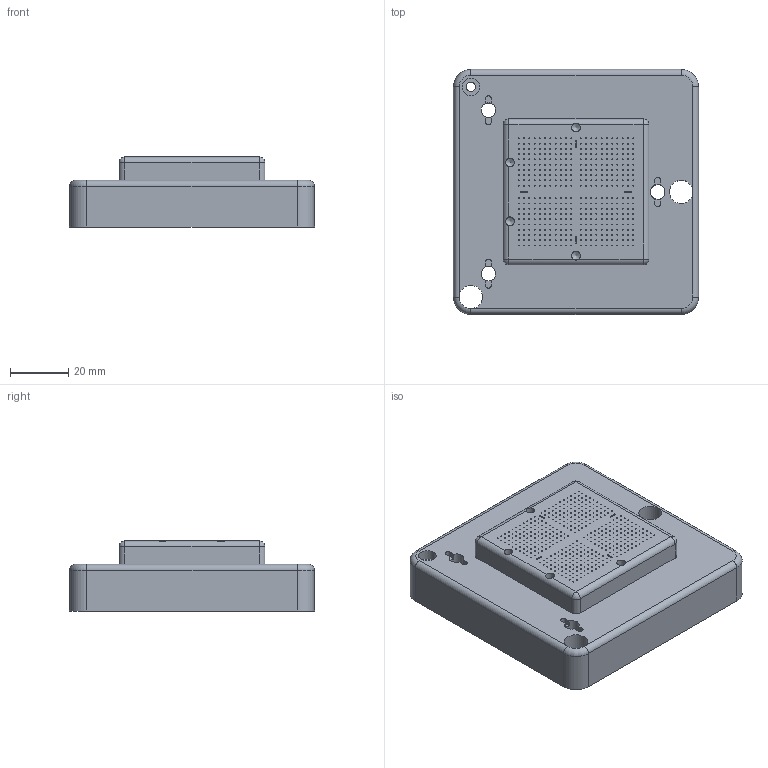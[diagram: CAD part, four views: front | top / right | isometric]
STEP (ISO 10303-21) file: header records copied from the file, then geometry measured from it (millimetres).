
FILE_DESCRIPTION(/* description */ ('Chuck Baremodule'),/* implementation_level */ '2;1');
FILE_NAME(/* name */ 'Z:\Werkstatt Server\Projekte\Atlas\Entwicklung u. Konstruktion\Konstruktion\CAD Daten\ITkPixToolV2.0\Baremodule Jig\Pivote Plate\ITPTv2.01.01.01.stp',/* time_stamp */ '2021-08-06T14:17:52+02:00',/* author */ ('Tim Kanngießer'),/* organization */ (''),/* preprocessor_version */ 'ST-DEVELOPER v18.1',/* originating_system */ 'Autodesk Inventor 2022',/* authorisation */ '');
FILE_SCHEMA (('AUTOMOTIVE_DESIGN { 1 0 10303 214 3 1 1 }'));
Length unit declared in the file: millimetre
Products named in the file (1): ITPTv2.01.01.01
Bounding box: 84 x 84 x 24 mm (x, y, z)
Volume: 90342.8 mm3; surface area: 27049 mm2
Topology: 1 solids, 1 shells, 563 faces, 1644 edges, 1080 vertices
Faces by surface type: cylinder 488, plane 51, cone 16, torus 4, sphere 4
Full cylindrical faces by diameter (mm): 0.3 x440, 2.459 x4, 3 x4, 3.2 x1, 5 x3, 6 x1, 8 x3, 10 x2
Entity records: 20979 total; most frequent: DIRECTION 3753, CARTESIAN_POINT 3332, ORIENTED_EDGE 3256, EDGE_CURVE 1628, AXIS2_PLACEMENT_3D 1567, EDGE_LOOP 1468, VERTEX_POINT 1080, CIRCLE 1003
